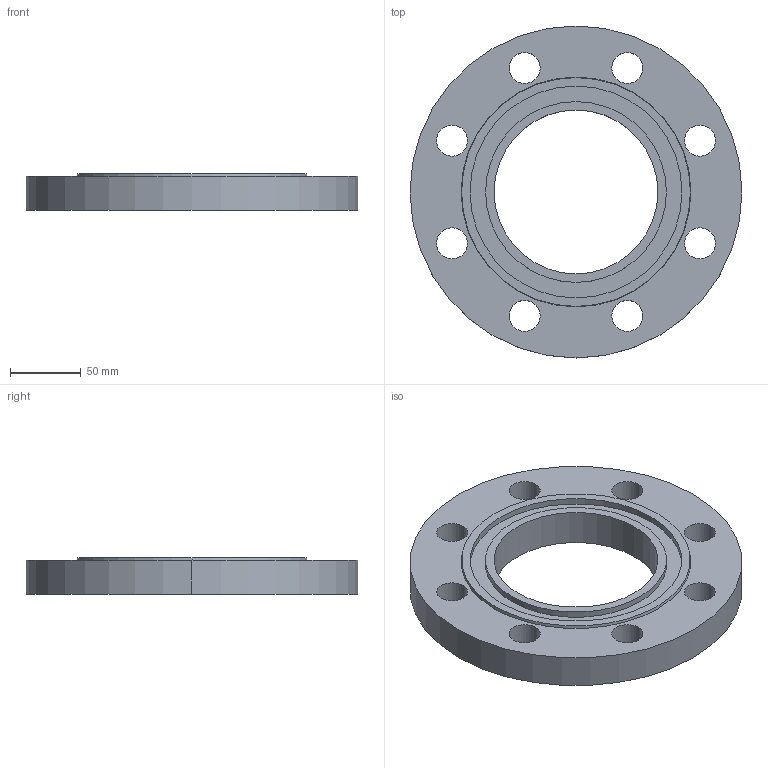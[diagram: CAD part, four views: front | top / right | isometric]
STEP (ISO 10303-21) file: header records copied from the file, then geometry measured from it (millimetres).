
FILE_DESCRIPTION (( 'STEP AP214' ), '1' );
FILE_NAME ('PN40 DN100 Type 01 - Type D Face.STEP', '2019-01-02T00:29:14', ( '' ), ( '' ), 'SwSTEP 2.0', 'SolidWorks 2019', '' );
FILE_SCHEMA (( 'AUTOMOTIVE_DESIGN' ));
Length unit declared in the file: millimetre
Products named in the file (1): PN40 DN100 Type 01 - Type D Face
Bounding box: 235 x 235 x 26 mm (x, y, z)
Volume: 712993 mm3; surface area: 104778.3 mm2
Topology: 1 solids, 1 shells, 31 faces, 78 edges, 52 vertices
Faces by surface type: cylinder 24, plane 5, cone 2
Entity records: 1034 total; most frequent: DIRECTION 194, CARTESIAN_POINT 162, ORIENTED_EDGE 156, AXIS2_PLACEMENT_3D 84, EDGE_CURVE 78, CIRCLE 52, EDGE_LOOP 52, VERTEX_POINT 52
